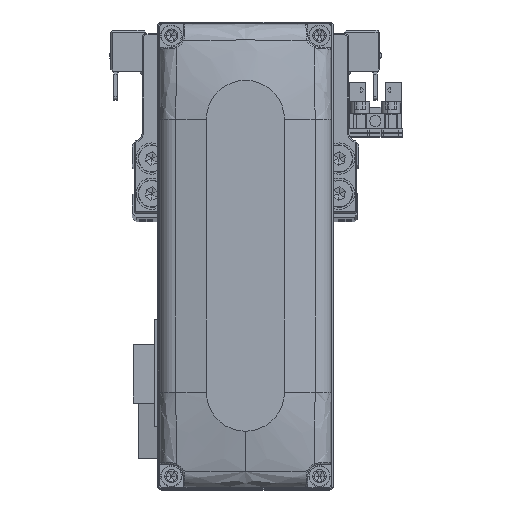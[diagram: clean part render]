
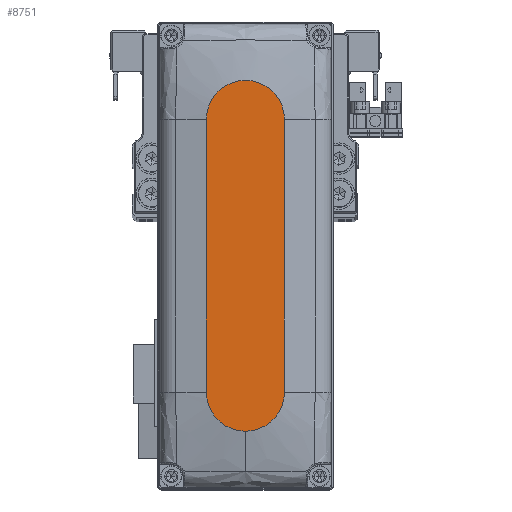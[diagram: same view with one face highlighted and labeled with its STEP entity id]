
A CAD part, top view. The second image highlights one B-rep face of the part: STEP entity #8751.
In plain terms, the highlighted planar face has unit normal (0, 0, 1).
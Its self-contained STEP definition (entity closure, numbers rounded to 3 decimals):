
#309 = CARTESIAN_POINT ( 'NONE',  ( -35., -10., 28. ) ) ;
#361 = CARTESIAN_POINT ( 'NONE',  ( -35., 10., 28. ) ) ;
#443 = CIRCLE ( 'NONE', #5552, 10. ) ;
#1409 = ORIENTED_EDGE ( 'NONE', *, *, #8262, .T. ) ;
#1463 = DIRECTION ( 'NONE',  ( 1., 0., 0. ) ) ;
#5323 = EDGE_CURVE ( 'NONE', #14638, #26286, #26338, .T. ) ;
#5552 = AXIS2_PLACEMENT_3D ( 'NONE', #16730, #28947, #1463 ) ;
#6127 = VECTOR ( 'NONE', #12617, 1000. ) ;
#7338 = CARTESIAN_POINT ( 'NONE',  ( 0., 0., 28. ) ) ;
#8262 = EDGE_CURVE ( 'NONE', #10896, #14638, #13799, .T. ) ;
#8751 = ADVANCED_FACE ( 'NONE', ( #22587 ), #34815, .T. ) ;
#10343 = DIRECTION ( 'NONE',  ( 0., 0., 1. ) ) ;
#10401 = DIRECTION ( 'NONE',  ( 0., 0., 1. ) ) ;
#10896 = VERTEX_POINT ( 'NONE', #27343 ) ;
#11089 = DIRECTION ( 'NONE',  ( 1., 0., 0. ) ) ;
#12617 = DIRECTION ( 'NONE',  ( -1., 0., 0. ) ) ;
#13274 = CARTESIAN_POINT ( 'NONE',  ( 35., -10., 28. ) ) ;
#13728 = AXIS2_PLACEMENT_3D ( 'NONE', #37804, #10343, #22575 ) ;
#13799 = CIRCLE ( 'NONE', #36201, 10. ) ;
#14638 = VERTEX_POINT ( 'NONE', #309 ) ;
#14811 = CARTESIAN_POINT ( 'NONE',  ( 35., 10., 28. ) ) ;
#15253 = ORIENTED_EDGE ( 'NONE', *, *, #5323, .T. ) ;
#16640 = VECTOR ( 'NONE', #11089, 1000. ) ;
#16730 = CARTESIAN_POINT ( 'NONE',  ( 35., 0., 28. ) ) ;
#18238 = VERTEX_POINT ( 'NONE', #14811 ) ;
#18290 = VERTEX_POINT ( 'NONE', #39435 ) ;
#19599 = DIRECTION ( 'NONE',  ( 0., 0., 1. ) ) ;
#19718 = EDGE_CURVE ( 'NONE', #18238, #10896, #27836, .T. ) ;
#21689 = EDGE_LOOP ( 'NONE', ( #34517, #1409, #15253, #23180, #30126 ) ) ;
#22575 = DIRECTION ( 'NONE',  ( 1., 0., 0. ) ) ;
#22587 = FACE_OUTER_BOUND ( 'NONE', #21689, .T. ) ;
#22632 = DIRECTION ( 'NONE',  ( 1., 0., 0. ) ) ;
#23180 = ORIENTED_EDGE ( 'NONE', *, *, #24923, .T. ) ;
#24923 = EDGE_CURVE ( 'NONE', #26286, #18290, #31031, .T. ) ;
#26286 = VERTEX_POINT ( 'NONE', #13274 ) ;
#26338 = LINE ( 'NONE', #38531, #16640 ) ;
#27116 = EDGE_CURVE ( 'NONE', #18290, #18238, #443, .T. ) ;
#27343 = CARTESIAN_POINT ( 'NONE',  ( -35., 10., 28. ) ) ;
#27836 = LINE ( 'NONE', #361, #6127 ) ;
#28947 = DIRECTION ( 'NONE',  ( 0., 0., 1. ) ) ;
#29205 = AXIS2_PLACEMENT_3D ( 'NONE', #7338, #19599, #31823 ) ;
#30126 = ORIENTED_EDGE ( 'NONE', *, *, #27116, .T. ) ;
#31031 = CIRCLE ( 'NONE', #13728, 10. ) ;
#31823 = DIRECTION ( 'NONE',  ( 1., 0., 0. ) ) ;
#34517 = ORIENTED_EDGE ( 'NONE', *, *, #19718, .T. ) ;
#34815 = PLANE ( 'NONE',  #29205 ) ;
#36201 = AXIS2_PLACEMENT_3D ( 'NONE', #37857, #10401, #22632 ) ;
#37804 = CARTESIAN_POINT ( 'NONE',  ( 35., 0., 28. ) ) ;
#37857 = CARTESIAN_POINT ( 'NONE',  ( -35., 0., 28. ) ) ;
#38531 = CARTESIAN_POINT ( 'NONE',  ( -35., -10., 28. ) ) ;
#39435 = CARTESIAN_POINT ( 'NONE',  ( 45., 0., 28. ) ) ;
